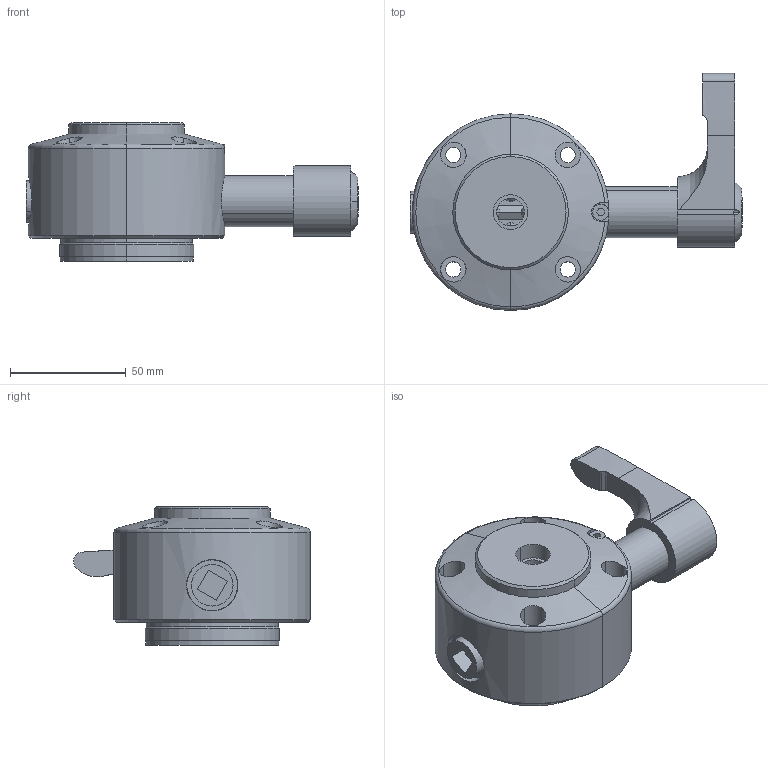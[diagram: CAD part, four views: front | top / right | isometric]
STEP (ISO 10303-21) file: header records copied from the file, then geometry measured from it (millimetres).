
FILE_DESCRIPTION (( 'STEP AP203' ), '1' );
FILE_NAME ('QLPDW85-300.STEP', '2024-11-08T06:26:40', ( '' ), ( '' ), 'SwSTEP 2.0', 'SolidWorks 2023', '' );
FILE_SCHEMA (( 'CONFIG_CONTROL_DESIGN' ));
Length unit declared in the file: millimetre
Products named in the file (4): QLPDW85-300_02; QLPDW85-300_01; QLPDW85-300_03; QLPDW85-300
Assembly tree (3 placements, depth 2):
  QLPDW85-300
    QLPDW85-300_01
    QLPDW85-300_02
    QLPDW85-300_03
Bounding box: 143.57 x 102.5 x 60 mm (x, y, z)
Volume: 270170.5 mm3; surface area: 69932.6 mm2
Topology: 3 solids, 4 shells, 273 faces, 636 edges, 405 vertices
Faces by surface type: cylinder 127, plane 94, cone 26, sphere 18, torus 8
Entity records: 9834 total; most frequent: CARTESIAN_POINT 3046, DIRECTION 1397, ORIENTED_EDGE 1272, EDGE_CURVE 636, AXIS2_PLACEMENT_3D 561, VERTEX_POINT 405, EDGE_LOOP 327, CIRCLE 282
